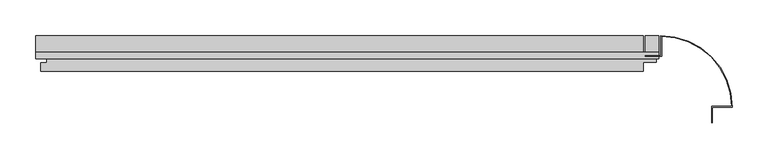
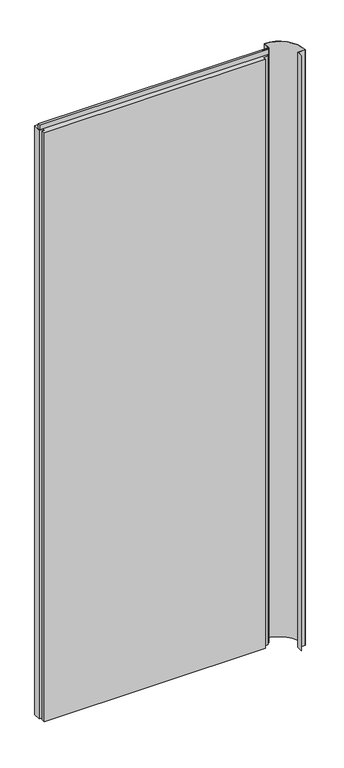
"""IFC4 building model written with IfcOpenShell, lengths in millimetres: plate geometry, Trimo_Qbiss Screen_Normal Panel-VERTICAL : HR - FB."""

from ifc_helpers import new_model, si_unit, point, frame, frame_2d, origin, place, context, project, spatial, polyline, circle_curve, trimmed, segment, composite_curve, outline, extrude, source, transform, mapped, element, save


def plate_504bdb2b(model_context):
    return source(origin(), model_context, "Body", "SweptSolid", [
        extrude(outline(polyline([(448.0, 97.0), (429.0, 97.0), (429.0, 126.0), (448.0, 126.0), (448.0, 97.0)])), frame((0.0, 0.0, 12.5), z_axis=(0.0, 0.0, 1.0), x_axis=(1.0, 0.0, 0.0)), (0.0, 0.0, 1.0), 2375.0),
        extrude(outline(polyline([(-425.0, 93.9), (-425.0, 102.6), (448.0, 102.6), (448.0, 93.9), (-425.0, 93.9)])), frame((0.0, 0.0, 2390.5), z_axis=(0.0, 0.0, 1.0), x_axis=(1.0, 0.0, 0.0)), (0.0, 0.0, 1.0), 19.0),
        extrude(outline(polyline([(426.0, 97.0), (444.5, 97.0), (444.5, 89.0), (426.0, 89.0), (426.0, 76.0), (-418.0, 76.0), (-418.0, 88.0), (-409.5, 88.0), (-409.5, 98.0), (-425.0, 98.0), (-425.0, 126.0), (426.0, 126.0), (426.0, 97.0)])), frame((0.0, 0.0, 12.5), z_axis=(0.0, 0.0, 1.0), x_axis=(1.0, 0.0, 0.0)), (0.0, 0.0, 1.0), 2375.0),
        extrude(outline(composite_curve([segment(polyline([(451.0, 97.8), (451.0, 126.0)]), True, "CONTINUOUS"), segment(trimmed(circle_curve(frame_2d((451.0, 26.0)), 100.0), [point((451.0, 126.0))], [point((551.0, 26.0))], False, "CARTESIAN"), True, "CONTINUOUS"), segment(polyline([(551.0, 26.0), (522.8, 26.0), (522.8, 4.0), (522.0, 4.0), (522.0, 26.8), (550.1967741, 26.8)]), True, "CONTINUOUS"), segment(trimmed(circle_curve(frame_2d((451.0, 26.0)), 99.2), [point((550.1967741, 26.8))], [point((451.8, 125.1967741))], True, "CARTESIAN"), True, "CONTINUOUS"), segment(polyline([(451.8, 125.1967741), (451.8, 97.0), (429.0, 97.0), (429.0, 97.8), (451.0, 97.8)]), True, "CONTINUOUS")], self_intersect=False)), frame((0.0, 0.0, 12.5), z_axis=(0.0, 0.0, 1.0), x_axis=(1.0, 0.0, 0.0)), (0.0, 0.0, 1.0), 2400.0),
    ])


if __name__ == "__main__":
    model = new_model("IFC4")
    model_context = context("Model", 3, world=origin())
    ifc_project = project(units=[si_unit("LENGTHUNIT", "METRE", prefix="MILLI")], contexts=[model_context])
    site = spatial("IfcSite", under=ifc_project)
    building = spatial("IfcBuilding", under=site)
    placement = place(None, origin())
    plate_shape = plate_504bdb2b(model_context)
    element("IfcPlate", 1, ObjectType="Trimo_Qbiss Screen_Normal Panel-VERTICAL : HR - FB", at=placement, inside=building, context=model_context, shape_type="MappedRepresentation", body=[
        mapped(plate_shape, transform((0.0, 0.0, 0.0), x_axis=(1.0, 0.0, 0.0), y_axis=(0.0, 1.0, 0.0), z_axis=(0.0, 0.0, 1.0))),
    ])
    save(model, "model.ifc")
